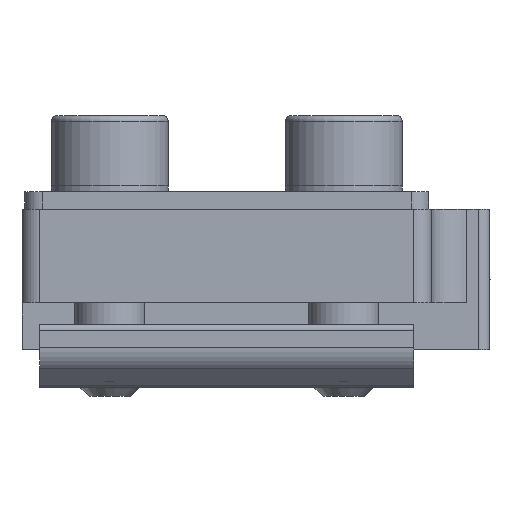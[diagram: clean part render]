
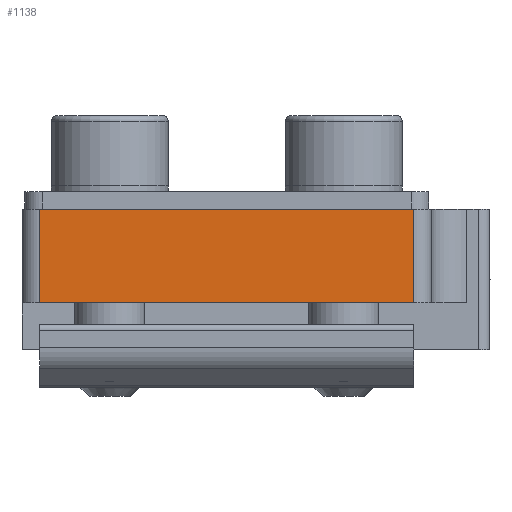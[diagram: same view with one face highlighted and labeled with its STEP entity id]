
A CAD part, front view. The second image highlights one B-rep face of the part: STEP entity #1138.
In plain terms, the highlighted planar face has unit normal (0, -1, 0).
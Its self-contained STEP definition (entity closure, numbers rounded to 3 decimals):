
#249 = ORIENTED_EDGE ( 'NONE', *, *, #2667, .T. ) ;
#261 = CARTESIAN_POINT ( 'NONE',  ( -17.5, -36.2, 6. ) ) ;
#517 = DIRECTION ( 'NONE',  ( 0., 0., 1. ) ) ;
#601 = CARTESIAN_POINT ( 'NONE',  ( -16., -36.2, 6. ) ) ;
#689 = CARTESIAN_POINT ( 'NONE',  ( 16., -36.2, 6. ) ) ;
#737 = DIRECTION ( 'NONE',  ( 0., 0., 1. ) ) ;
#1138 = ADVANCED_FACE ( 'NONE', ( #1732 ), #2698, .F. ) ;
#1333 = EDGE_CURVE ( 'NONE', #6042, #2211, #2962, .T. ) ;
#1659 = DIRECTION ( 'NONE',  ( 1., 0., 0. ) ) ;
#1732 = FACE_OUTER_BOUND ( 'NONE', #1773, .T. ) ;
#1773 = EDGE_LOOP ( 'NONE', ( #249, #5876, #2139, #6088 ) ) ;
#1937 = VERTEX_POINT ( 'NONE', #4228 ) ;
#2096 = CARTESIAN_POINT ( 'NONE',  ( -17.5, -36.2, -2. ) ) ;
#2139 = ORIENTED_EDGE ( 'NONE', *, *, #5328, .F. ) ;
#2193 = DIRECTION ( 'NONE',  ( 1., 0., 0. ) ) ;
#2211 = VERTEX_POINT ( 'NONE', #5278 ) ;
#2508 = LINE ( 'NONE', #2096, #3828 ) ;
#2667 = EDGE_CURVE ( 'NONE', #2211, #4240, #2508, .T. ) ;
#2698 = PLANE ( 'NONE',  #4289 ) ;
#2730 = CARTESIAN_POINT ( 'NONE',  ( -17.5, -36.2, 6. ) ) ;
#2891 = VECTOR ( 'NONE', #517, 1000. ) ;
#2962 = LINE ( 'NONE', #601, #3809 ) ;
#3024 = DIRECTION ( 'NONE',  ( 0., 0., -1. ) ) ;
#3053 = DIRECTION ( 'NONE',  ( 0., 1., 0. ) ) ;
#3809 = VECTOR ( 'NONE', #3024, 1000. ) ;
#3828 = VECTOR ( 'NONE', #1659, 1000. ) ;
#4200 = EDGE_CURVE ( 'NONE', #4240, #1937, #5504, .T. ) ;
#4228 = CARTESIAN_POINT ( 'NONE',  ( 16., -36.2, 6. ) ) ;
#4240 = VERTEX_POINT ( 'NONE', #5802 ) ;
#4289 = AXIS2_PLACEMENT_3D ( 'NONE', #261, #3053, #737 ) ;
#4509 = VECTOR ( 'NONE', #2193, 1000. ) ;
#4545 = LINE ( 'NONE', #2730, #4509 ) ;
#4673 = CARTESIAN_POINT ( 'NONE',  ( -16., -36.2, 6. ) ) ;
#5278 = CARTESIAN_POINT ( 'NONE',  ( -16., -36.2, -2. ) ) ;
#5328 = EDGE_CURVE ( 'NONE', #6042, #1937, #4545, .T. ) ;
#5504 = LINE ( 'NONE', #689, #2891 ) ;
#5802 = CARTESIAN_POINT ( 'NONE',  ( 16., -36.2, -2. ) ) ;
#5876 = ORIENTED_EDGE ( 'NONE', *, *, #4200, .T. ) ;
#6042 = VERTEX_POINT ( 'NONE', #4673 ) ;
#6088 = ORIENTED_EDGE ( 'NONE', *, *, #1333, .T. ) ;
